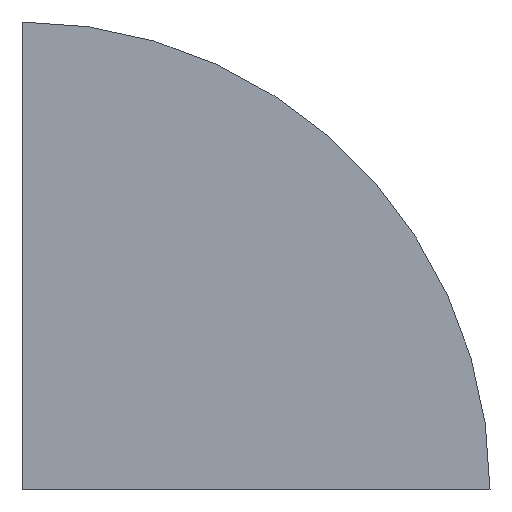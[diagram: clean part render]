
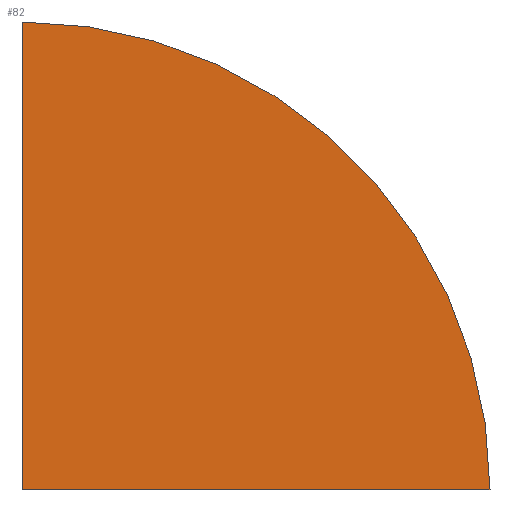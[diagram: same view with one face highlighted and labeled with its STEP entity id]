
A CAD part, front view. The second image highlights one B-rep face of the part: STEP entity #82.
In plain terms, the highlighted planar face has unit normal (0, -1, 0).
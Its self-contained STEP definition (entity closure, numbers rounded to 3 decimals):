
#51=CARTESIAN_POINT('Axis2P3D Location',(0.,0.,0.)) ;
#56=CARTESIAN_POINT('Line Origine',(65.5,0.,0.)) ;
#60=CARTESIAN_POINT('Vertex',(0.,0.,0.)) ;
#62=CARTESIAN_POINT('Vertex',(131.,0.,0.)) ;
#65=CARTESIAN_POINT('Axis2P3D Location',(0.,0.,0.)) ;
#69=CARTESIAN_POINT('Vertex',(0.,0.,131.)) ;
#72=CARTESIAN_POINT('Line Origine',(0.,0.,65.5)) ;
#52=DIRECTION('Axis2P3D Direction',(0.,-1.,0.)) ;
#53=DIRECTION('Axis2P3D XDirection',(1.,0.,0.)) ;
#57=DIRECTION('Vector Direction',(1.,0.,0.)) ;
#66=DIRECTION('Axis2P3D Direction',(0.,-1.,0.)) ;
#73=DIRECTION('Vector Direction',(0.,0.,1.)) ;
#54=AXIS2_PLACEMENT_3D('Plane Axis2P3D',#51,#52,#53) ;
#67=AXIS2_PLACEMENT_3D('Circle Axis2P3D',#65,#66,$) ;
#78=ORIENTED_EDGE('',*,*,#64,.T.) ;
#79=ORIENTED_EDGE('',*,*,#71,.T.) ;
#80=ORIENTED_EDGE('',*,*,#76,.F.) ;
#58=VECTOR('Line Direction',#57,1.) ;
#74=VECTOR('Line Direction',#73,1.) ;
#82=ADVANCED_FACE('PartBody',(#81),#55,.T.) ;
#68=CIRCLE('generated circle',#67,131.) ;
#64=EDGE_CURVE('',#61,#63,#59,.T.) ;
#71=EDGE_CURVE('',#63,#70,#68,.T.) ;
#76=EDGE_CURVE('',#61,#70,#75,.T.) ;
#77=EDGE_LOOP('',(#78,#79,#80)) ;
#81=FACE_OUTER_BOUND('',#77,.T.) ;
#59=LINE('Line',#56,#58) ;
#75=LINE('Line',#72,#74) ;
#55=PLANE('',#54) ;
#61=VERTEX_POINT('',#60) ;
#63=VERTEX_POINT('',#62) ;
#70=VERTEX_POINT('',#69) ;
